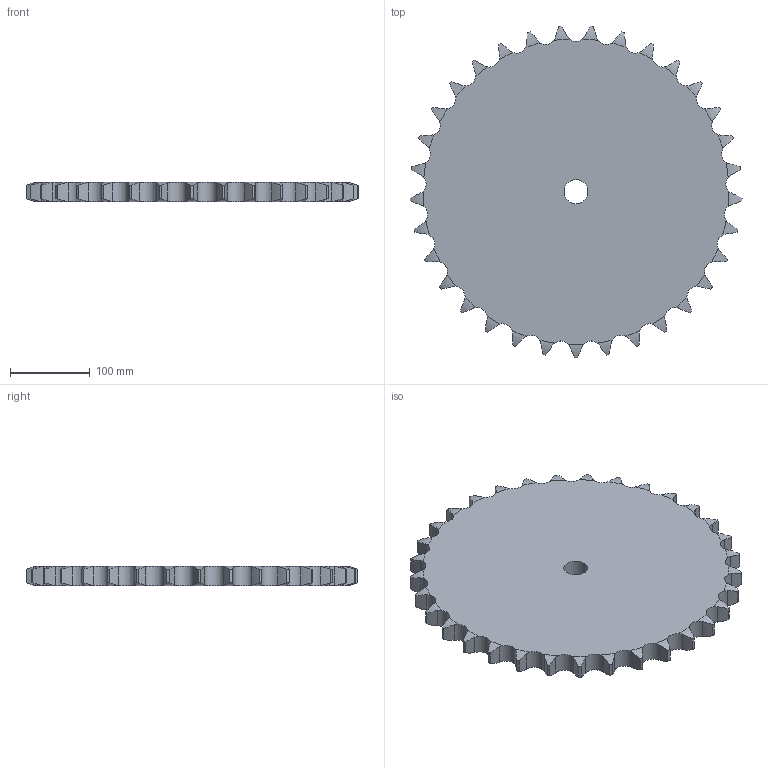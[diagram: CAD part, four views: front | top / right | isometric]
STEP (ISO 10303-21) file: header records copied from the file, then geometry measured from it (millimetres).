
FILE_DESCRIPTION((''),'2;1');
FILE_NAME('500-701-0033_PRT','2021-02-12T',('Brieden'),('Brieden'),'PRO/ENGINEER BY PARAMETRIC TECHNOLOGY CORPORATION, 2010160','PRO/ENGINEER BY PARAMETRIC TECHNOLOGY CORPORATION, 2010160','');
FILE_SCHEMA(('AUTOMOTIVE_DESIGN { 1 0 10303 214 1 1 1 1 }'));
Length unit declared in the file: millimetre
Products named in the file (1): 500-701-0033_PRT
Bounding box: 415.03 x 414.57 x 24.1 mm (x, y, z)
Volume: 2846827.5 mm3; surface area: 283065.7 mm2
Topology: 1 solids, 1 shells, 202 faces, 600 edges, 400 vertices
Faces by surface type: cylinder 134, torus 66, plane 2
Entity records: 10180 total; most frequent: CARTESIAN_POINT 3213, ORIENTED_EDGE 1200, DIRECTION 942, PRESENTATION_STYLE_ASSIGNMENT 601, STYLED_ITEM 601, CURVE_STYLE 600, EDGE_CURVE 600, AXIS2_PLACEMENT_3D 404
